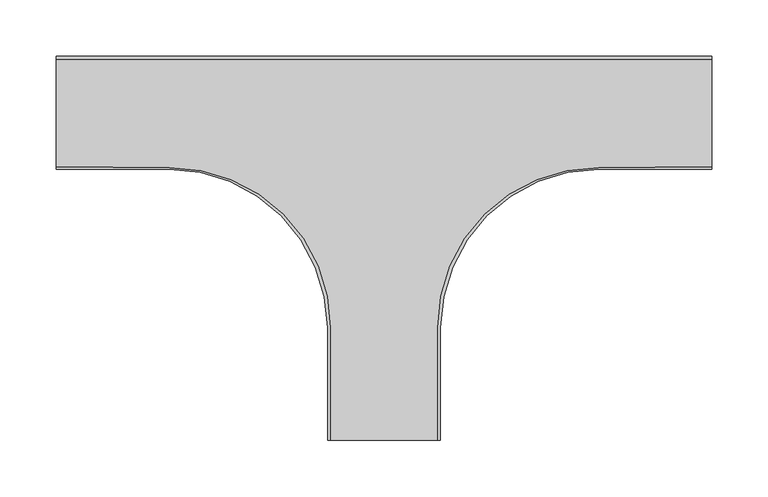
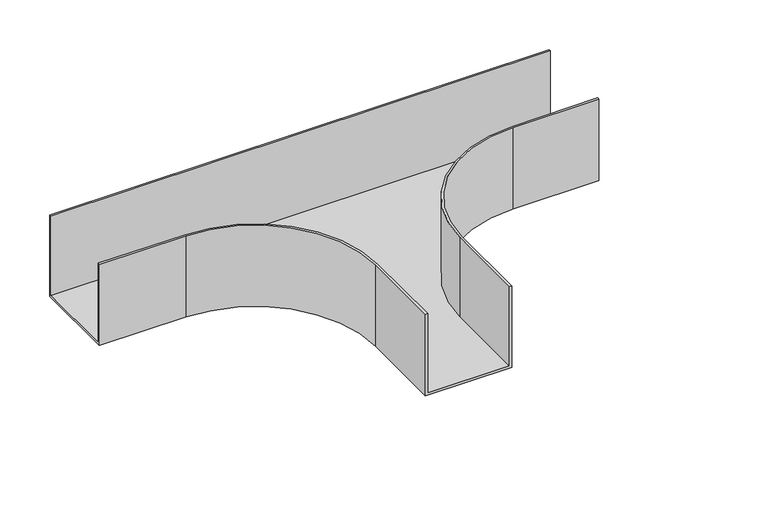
"""IFC4 building model written with IfcOpenShell, lengths in millimetres: cable carrier fitting geometry, BAKS_Tee_TKZ : TKZCH100."""

from ifc_helpers import new_model, si_unit, frame, origin, place, context, project, spatial, polyline, circle_curve, source, transform, mapped, element, save
from ifc_brep_helpers import plane_surface, cylinder_surface, revolved_surface, advanced_brep


def cable_carrier_fitting_c2d22de5(model_context):
    return source(origin(), model_context, "Body", "AdvancedBrep", [
        advanced_brep(
        [(-50.0, -190.0, 50.0), (-50.0, -290.0, 50.0), (-47.46, -290.0, 50.0), (-47.46, -190.0, 50.0), (-190.0, -48.503822, 50.0), (-290.0, -47.46, 50.0), (-290.0, -50.0, 50.0), (-190.0, -50.0, 50.0), (50.0, -190.0, 50.0), (190.0, -50.0, 50.0), (290.0, -50.0, 50.0), (290.0, -47.46, 50.0), (190.0, -48.503822, 50.0), (47.46, -190.0, 50.0), (47.46, -290.0, 50.0), (50.0, -290.0, 50.0), (290.0, 50.0, 50.0), (-290.0, 50.0, 50.0), (-290.0, 47.46, 50.0), (290.0, 47.46, 50.0), (-50.0, -190.0, -50.0), (-190.0, -50.0, -50.0), (-290.0, -50.0, -50.0), (-290.0, 50.0, -50.0), (290.0, 50.0, -50.0), (290.0, -50.0, -50.0), (190.0, -50.0, -50.0), (50.0, -190.0, -50.0), (50.0, -290.0, -50.0), (-50.0, -290.0, -50.0), (-50.0, -190.0, -47.46), (47.46, -290.0, -47.46), (-47.46, -290.0, -47.46), (-47.46, -190.0, -47.46), (-190.0, -48.503822, -47.46), (-290.0, -47.46, -47.46), (-290.0, 47.46, -47.46), (-190.0, -50.0, -47.46), (50.0, -190.0, -47.46), (190.0, -50.0, -47.46), (290.0, 47.46, -47.46), (290.0, -47.46, -47.46), (190.0, -48.503822, -47.46), (47.46, -190.0, -47.46)],
        [
            (0, 1),
            (1, 2),
            (2, 3),
            (3, 4, circle_curve(frame((-188.96, -190.0, 50.0), z_axis=(0.0, 0.0, 1.0), x_axis=(1.0, 0.0, 0.0)), 141.5)),
            (4, 5),
            (5, 6),
            (6, 7),
            (7, 0, circle_curve(frame((-190.0, -190.0, 50.0), z_axis=(0.0, 0.0, -1.0), x_axis=(1.0, 0.0, 0.0)), 140.0)),
            (8, 9, circle_curve(frame((190.0, -190.0, 50.0), z_axis=(0.0, 0.0, -1.0), x_axis=(1.0, 0.0, 0.0)), 140.0)),
            (9, 10),
            (10, 11),
            (11, 12),
            (12, 13, circle_curve(frame((188.96, -190.0, 50.0), z_axis=(0.0, 0.0, 1.0), x_axis=(1.0, 0.0, 0.0)), 141.5)),
            (13, 14),
            (14, 15),
            (15, 8),
            (16, 17),
            (17, 18),
            (18, 19),
            (19, 16),
            (20, 21, circle_curve(frame((-190.0, -190.0, -50.0), z_axis=(0.0, 0.0, 1.0), x_axis=(1.0, 0.0, 0.0)), 140.0)),
            (21, 22),
            (22, 23),
            (23, 24),
            (24, 25),
            (25, 26),
            (26, 27, circle_curve(frame((190.0, -190.0, -50.0), z_axis=(0.0, 0.0, 1.0), x_axis=(1.0, 0.0, 0.0)), 140.0)),
            (27, 28),
            (28, 29),
            (29, 20),
            (29, 1),
            (0, 30),
            (30, 20),
            (28, 15),
            (14, 31),
            (31, 32),
            (32, 2),
            (32, 33),
            (33, 3),
            (33, 34, circle_curve(frame((-188.96, -190.0, -47.46), z_axis=(0.0, 0.0, 1.0), x_axis=(1.0, 0.0, 0.0)), 141.5)),
            (34, 4),
            (34, 35),
            (35, 5),
            (35, 36),
            (36, 18),
            (17, 23),
            (22, 6),
            (21, 37),
            (37, 7),
            (8, 38),
            (38, 27),
            (26, 39),
            (39, 9),
            (25, 10),
            (24, 16),
            (19, 40),
            (40, 41),
            (41, 11),
            (41, 42),
            (42, 12),
            (42, 43, circle_curve(frame((188.96, -190.0, -47.46), z_axis=(0.0, 0.0, 1.0), x_axis=(1.0, 0.0, 0.0)), 141.5)),
            (43, 13),
            (43, 31),
            (36, 40),
        ],
        [
            plane_surface(frame((-50.0, -190.0, 50.0), z_axis=(0.0, 0.0, 1.0), x_axis=(0.0, -1.0, 0.0))),
            plane_surface(frame((-50.0, -190.0, -50.0), z_axis=(0.0, 0.0, -1.0), x_axis=(0.0, 1.0, 0.0))),
            plane_surface(frame((-50.0, -190.0, 50.0), z_axis=(-1.0, 0.0, 0.0), x_axis=(0.0, 0.0, -1.0))),
            plane_surface(frame((-50.0, -290.0, 50.0), z_axis=(0.0, -1.0, 0.0), x_axis=(0.0, 0.0, -1.0))),
            plane_surface(frame((-47.46, -290.0, 50.0), z_axis=(1.0, 0.0, 0.0), x_axis=(0.0, 0.0, -1.0))),
            cylinder_surface(frame((-188.96, -190.0, -50.0), z_axis=(0.0, 0.0, 1.0), x_axis=(1.0, 0.0, 0.0)), 141.5),
            plane_surface(frame((-190.0, -48.503822, 50.0), z_axis=(0.010437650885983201, 0.9999455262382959, 0.0), x_axis=(0.0, 0.0, -1.0))),
            plane_surface(frame((-290.0, -47.46, 50.0), z_axis=(-1.0, 0.0, 0.0), x_axis=(0.0, 0.0, -1.0))),
            plane_surface(frame((-290.0, -50.0, 50.0), z_axis=(0.0, -1.0, 0.0), x_axis=(0.0, 0.0, -1.0))),
            revolved_surface(polyline([(-50.0, -190.0, -50.0), (-50.0, -190.0, 50.0)]), (-190.0, -190.0, -50.0), (0.0, 0.0, -1.0)),
            revolved_surface(polyline([(330.0, -190.0, -50.0), (330.0, -190.0, 50.0)]), (190.0, -190.0, 0.0), (0.0, 0.0, -1.0)),
            plane_surface(frame((190.0, -50.0, 50.0), z_axis=(0.0, -1.0, 0.0), x_axis=(0.0, 0.0, -1.0))),
            plane_surface(frame((290.0, -50.0, 50.0), z_axis=(1.0, 0.0, 0.0), x_axis=(0.0, 0.0, -1.0))),
            plane_surface(frame((290.0, -47.46, 50.0), z_axis=(-0.010437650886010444, 0.9999455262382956, 0.0), x_axis=(0.0, 0.0, -1.0))),
            cylinder_surface(frame((188.96, -190.0, 0.0), z_axis=(0.0, 0.0, 1.0), x_axis=(1.0, 0.0, 0.0)), 141.5),
            plane_surface(frame((47.46, -190.0, 50.0), z_axis=(-1.0, 0.0, 0.0), x_axis=(0.0, 0.0, -1.0))),
            plane_surface(frame((50.0, -290.0, 50.0), z_axis=(1.0, 0.0, 0.0), x_axis=(0.0, 0.0, -1.0))),
            plane_surface(frame((290.0, 50.0, 50.0), z_axis=(0.0, 1.0, 0.0), x_axis=(0.0, 0.0, -1.0))),
            plane_surface(frame((-290.0, 47.46, 50.0), z_axis=(0.0, -1.0, 0.0), x_axis=(0.0, 0.0, -1.0))),
            plane_surface(frame((-50.0, -190.0, -47.46), z_axis=(0.0, 0.0, 1.0), x_axis=(0.0, -1.0, 0.0))),
        ],
        [
            (0, [[1, 2, 3, 4, 5, 6, 7, 8]]),
            (0, [[9, 10, 11, 12, 13, 14, 15, 16]]),
            (0, [[17, 18, 19, 20]]),
            (1, [[21, 22, 23, 24, 25, 26, 27, 28, 29, 30]]),
            (2, [[31, -1, 32, 33, -30]]),
            (3, [[-2, -31, -29, 34, -15, 35, 36, 37]]),
            (4, [[-3, -37, 38, 39]]),
            (5, [[-4, -39, 40, 41]]),
            (6, [[-5, -41, 42, 43]]),
            (7, [[-6, -43, 44, 45, -18, 46, -23, 47]]),
            (8, [[-7, -47, -22, 48, 49]]),
            (9, [[-8, -49, -48, -21, -33, -32]]),
            (10, [[-9, 50, 51, -27, 52, 53]]),
            (11, [[54, -10, -53, -52, -26]]),
            (12, [[-11, -54, -25, 55, -20, 56, 57, 58]]),
            (13, [[-12, -58, 59, 60]]),
            (14, [[-13, -60, 61, 62]]),
            (15, [[-14, -62, 63, -35]]),
            (16, [[-16, -34, -28, -51, -50]]),
            (17, [[-46, -17, -55, -24]]),
            (18, [[-19, -45, 64, -56]]),
            (19, [[-36, -63, -61, -59, -57, -64, -44, -42, -40, -38]]),
        ],
    ),
    ])


if __name__ == "__main__":
    model = new_model("IFC4")
    model_context = context("Model", 3, world=origin())
    ifc_project = project(units=[si_unit("LENGTHUNIT", "METRE", prefix="MILLI")], contexts=[model_context])
    site = spatial("IfcSite", under=ifc_project)
    building = spatial("IfcBuilding", under=site)
    placement = place(None, origin())
    cable_carrier_fitting_shape = cable_carrier_fitting_c2d22de5(model_context)
    element("IfcCableCarrierFitting", 1, ObjectType="BAKS_Tee_TKZ : TKZCH100", at=placement, inside=building, context=model_context, shape_type="MappedRepresentation", body=[
        mapped(cable_carrier_fitting_shape, transform((0.0, 0.0, 0.0), x_axis=(1.0, 0.0, 0.0), y_axis=(0.0, 1.0, 0.0), z_axis=(0.0, 0.0, 1.0))),
    ])
    save(model, "model.ifc")
